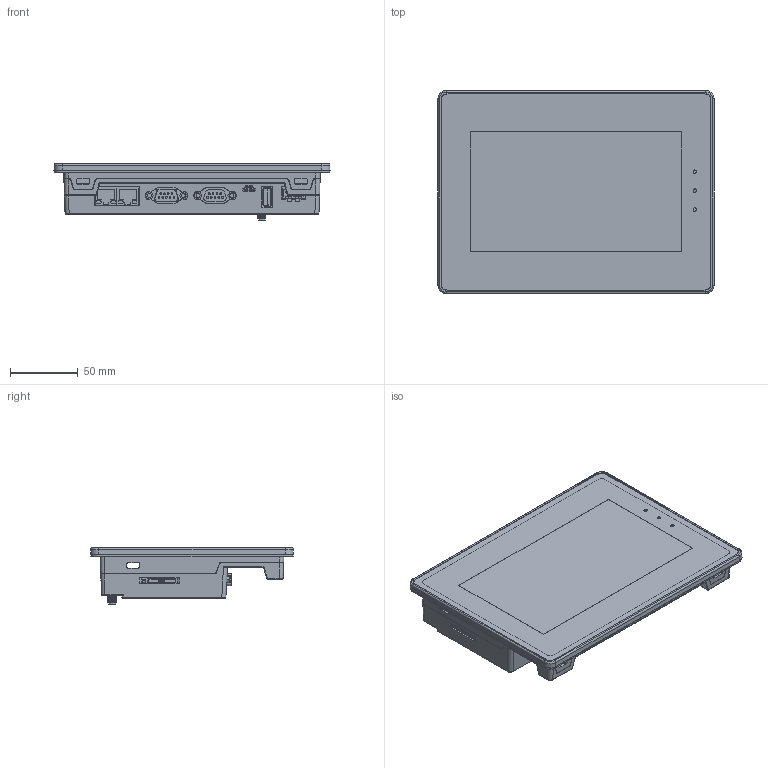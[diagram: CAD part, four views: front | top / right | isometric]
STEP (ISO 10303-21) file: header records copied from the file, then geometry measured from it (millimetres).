
FILE_DESCRIPTION((''),'2;1');
FILE_NAME('GT070E','2020-11-20T17:07:03',('Administrator'),(''),'CREO PARAMETRIC BY PTC INC, 2019164','CREO PARAMETRIC BY PTC INC, 2019164','');
FILE_SCHEMA(('CONFIG_CONTROL_DESIGN','SHAPE_APPEARANCE_LAYERS_GROUPS'));
Products named in the file (1): GT070E
Bounding box: 204 x 150 x 41.8 mm (x, y, z)
Surface area: 101202.1 mm2 (no closed solid volume)
Topology: 0 solids, 235 shells, 813 faces, 3982 edges, 3387 vertices
Faces by surface type: plane 505, cylinder 167, bspline 89, cone 24, torus 14, sphere 10, extrusion 4
Entity records: 62667 total; most frequent: CARTESIAN_POINT 34356, ORIENTED_EDGE 5307, DIRECTION 4631, EDGE_CURVE 3970, VERTEX_POINT 3386, VECTOR 2133, LINE 2129, B_SPLINE_CURVE_WITH_KNOTS 1315
